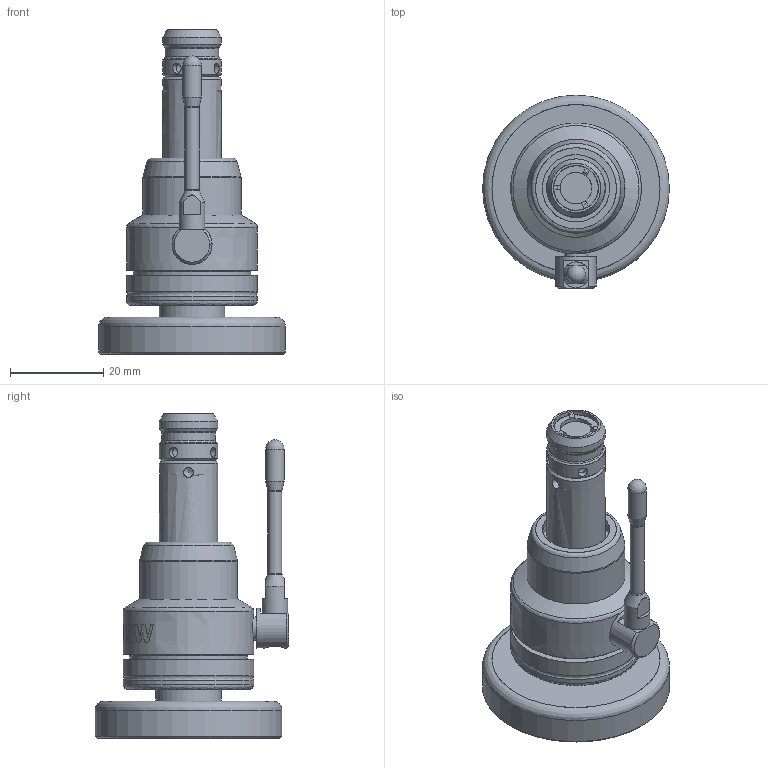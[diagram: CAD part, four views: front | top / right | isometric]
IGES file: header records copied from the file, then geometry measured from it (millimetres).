
Global section: file name: Z:\LA-8014-1281 QC20-W CENTRE MOUNT.igs; native system: NX V7.5; preprocessor: SIEMENS PLM Software NX 7.5; date: 20111219.133638; units: millimetre
Bounding box: 40 x 41.5 x 69.55 mm (x, y, z)
Surface area: 10445.2 mm2 (no closed solid volume)
Topology: 0 solids, 0 shells, 285 faces, 1864 edges, 1792 vertices
Faces by surface type: bspline 172, revolution 113
